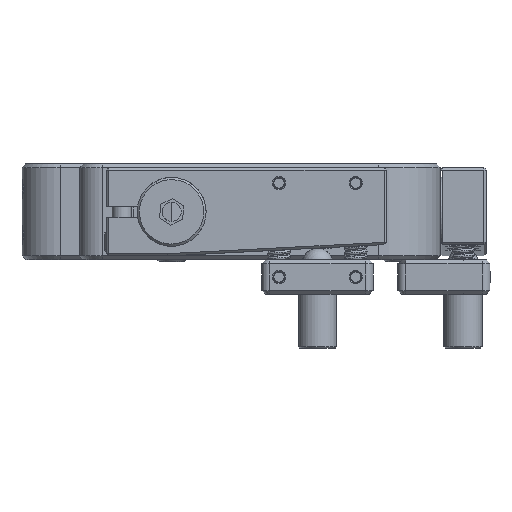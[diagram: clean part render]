
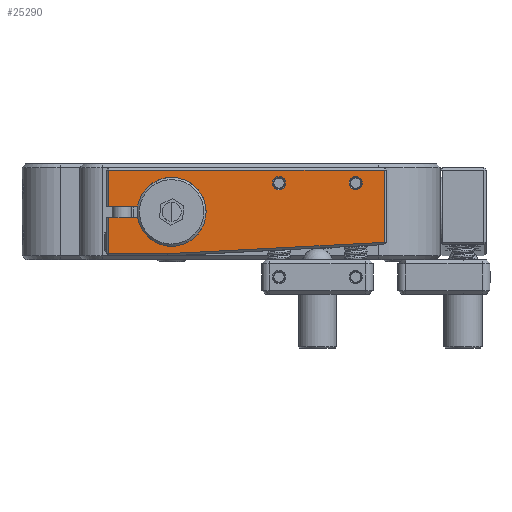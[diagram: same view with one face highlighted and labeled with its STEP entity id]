
A CAD part, front view. The second image highlights one B-rep face of the part: STEP entity #25290.
In plain terms, the highlighted planar face has unit normal (0, -1, 0).
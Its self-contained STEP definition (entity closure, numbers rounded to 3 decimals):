
#46 = CARTESIAN_POINT ( 'NONE',  ( -21., -6., 3.75 ) ) ;
#786 = CARTESIAN_POINT ( 'NONE',  ( -35.5, -6., -5.45 ) ) ;
#821 = AXIS2_PLACEMENT_3D ( 'NONE', #46, #23548, #32601 ) ;
#894 = AXIS2_PLACEMENT_3D ( 'NONE', #10769, #22538, #34475 ) ;
#1364 = CIRCLE ( 'NONE', #20429, 4.5 ) ;
#1648 = ORIENTED_EDGE ( 'NONE', *, *, #29728, .T. ) ;
#1784 = EDGE_CURVE ( 'NONE', #34677, #2443, #25568, .T. ) ;
#1942 = LINE ( 'NONE', #28921, #24547 ) ;
#2396 = ORIENTED_EDGE ( 'NONE', *, *, #5784, .T. ) ;
#2443 = VERTEX_POINT ( 'NONE', #15684 ) ;
#2470 = CARTESIAN_POINT ( 'NONE',  ( -25.25, -6., 5.45 ) ) ;
#2516 = DIRECTION ( 'NONE',  ( 1., 0., 0. ) ) ;
#3000 = CARTESIAN_POINT ( 'NONE',  ( -11.85, -6., 3.75 ) ) ;
#3021 = AXIS2_PLACEMENT_3D ( 'NONE', #10380, #10945, #10751 ) ;
#3743 = VERTEX_POINT ( 'NONE', #22226 ) ;
#3839 = VERTEX_POINT ( 'NONE', #31087 ) ;
#3955 = EDGE_CURVE ( 'NONE', #35959, #23693, #35302, .T. ) ;
#5614 = ORIENTED_EDGE ( 'NONE', *, *, #29167, .T. ) ;
#5784 = EDGE_CURVE ( 'NONE', #35959, #33024, #19371, .T. ) ;
#5830 = DIRECTION ( 'NONE',  ( -1., 0., 0. ) ) ;
#6355 = CARTESIAN_POINT ( 'NONE',  ( -43.2, -6., 0. ) ) ;
#6403 = CARTESIAN_POINT ( 'NONE',  ( -11., -6., 3.75 ) ) ;
#6441 = CIRCLE ( 'NONE', #37202, 0.85 ) ;
#6456 = CARTESIAN_POINT ( 'NONE',  ( -43.2, -6., 5.45 ) ) ;
#7032 = ORIENTED_EDGE ( 'NONE', *, *, #21325, .T. ) ;
#7416 = DIRECTION ( 'NONE',  ( 0., 0., -1. ) ) ;
#7465 = DIRECTION ( 'NONE',  ( 0., 0., 1. ) ) ;
#7471 = EDGE_CURVE ( 'NONE', #10352, #18314, #6441, .T. ) ;
#9964 = EDGE_CURVE ( 'NONE', #37945, #3839, #26896, .T. ) ;
#9974 = VERTEX_POINT ( 'NONE', #12244 ) ;
#10323 = DIRECTION ( 'NONE',  ( -1., 0., 0. ) ) ;
#10352 = VERTEX_POINT ( 'NONE', #3000 ) ;
#10380 = CARTESIAN_POINT ( 'NONE',  ( -11., -6., 3.75 ) ) ;
#10751 = DIRECTION ( 'NONE',  ( -1., 0., 0. ) ) ;
#10769 = CARTESIAN_POINT ( 'NONE',  ( -25.25, -6., 0. ) ) ;
#10930 = LINE ( 'NONE', #19801, #15586 ) ;
#10945 = DIRECTION ( 'NONE',  ( 0., 1., 0. ) ) ;
#11179 = CARTESIAN_POINT ( 'NONE',  ( -7.3, -6., 5.45 ) ) ;
#12174 = ORIENTED_EDGE ( 'NONE', *, *, #24682, .T. ) ;
#12244 = CARTESIAN_POINT ( 'NONE',  ( -43.2, -6., 0.75 ) ) ;
#12523 = DIRECTION ( 'NONE',  ( 0., 0., -1. ) ) ;
#12747 = ORIENTED_EDGE ( 'NONE', *, *, #3955, .F. ) ;
#13124 = CIRCLE ( 'NONE', #821, 0.85 ) ;
#13384 = EDGE_CURVE ( 'NONE', #33024, #37945, #20635, .T. ) ;
#13843 = EDGE_CURVE ( 'NONE', #29137, #32177, #29246, .T. ) ;
#13947 = VECTOR ( 'NONE', #7416, 1000. ) ;
#14500 = DIRECTION ( 'NONE',  ( 1., 0., 0. ) ) ;
#15586 = VECTOR ( 'NONE', #7465, 1000. ) ;
#15684 = CARTESIAN_POINT ( 'NONE',  ( -20.15, -6., 3.75 ) ) ;
#15736 = DIRECTION ( 'NONE',  ( 0., 1., 0. ) ) ;
#15807 = VECTOR ( 'NONE', #35030, 1000. ) ;
#16045 = EDGE_LOOP ( 'NONE', ( #36240, #12174, #5614, #22135, #12747, #2396, #35866, #17717, #32644 ) ) ;
#16492 = CARTESIAN_POINT ( 'NONE',  ( -43.2, -6., -5.45 ) ) ;
#16663 = ORIENTED_EDGE ( 'NONE', *, *, #1784, .T. ) ;
#17142 = PLANE ( 'NONE',  #894 ) ;
#17522 = CARTESIAN_POINT ( 'NONE',  ( -43.2, -6., -0.75 ) ) ;
#17717 = ORIENTED_EDGE ( 'NONE', *, *, #9964, .T. ) ;
#18259 = VECTOR ( 'NONE', #32770, 1000. ) ;
#18314 = VERTEX_POINT ( 'NONE', #31605 ) ;
#19371 = LINE ( 'NONE', #33823, #13947 ) ;
#19801 = CARTESIAN_POINT ( 'NONE',  ( -7.3, -6., 5.75 ) ) ;
#20273 = CIRCLE ( 'NONE', #3021, 0.85 ) ;
#20350 = CARTESIAN_POINT ( 'NONE',  ( -24.993, -6., -4.899 ) ) ;
#20429 = AXIS2_PLACEMENT_3D ( 'NONE', #36719, #15736, #10323 ) ;
#20635 = LINE ( 'NONE', #786, #18259 ) ;
#21320 = CARTESIAN_POINT ( 'NONE',  ( -21.85, -6., 3.75 ) ) ;
#21325 = EDGE_CURVE ( 'NONE', #2443, #34677, #13124, .T. ) ;
#21402 = LINE ( 'NONE', #6355, #34704 ) ;
#21503 = EDGE_CURVE ( 'NONE', #3839, #29137, #10930, .T. ) ;
#22135 = ORIENTED_EDGE ( 'NONE', *, *, #27704, .T. ) ;
#22226 = CARTESIAN_POINT ( 'NONE',  ( -39.437, -6., 0.75 ) ) ;
#22538 = DIRECTION ( 'NONE',  ( 0., 1., 0. ) ) ;
#23374 = CARTESIAN_POINT ( 'NONE',  ( -25.25, -6., -0.75 ) ) ;
#23548 = DIRECTION ( 'NONE',  ( 0., 1., 0. ) ) ;
#23693 = VERTEX_POINT ( 'NONE', #32671 ) ;
#24547 = VECTOR ( 'NONE', #2516, 1000. ) ;
#24599 = CARTESIAN_POINT ( 'NONE',  ( -21., -6., 3.75 ) ) ;
#24682 = EDGE_CURVE ( 'NONE', #32177, #9974, #21402, .T. ) ;
#25166 = EDGE_LOOP ( 'NONE', ( #1648, #33122 ) ) ;
#25290 = ADVANCED_FACE ( 'NONE', ( #37158, #31388, #28500 ), #17142, .F. ) ;
#25568 = CIRCLE ( 'NONE', #35416, 0.85 ) ;
#26896 = LINE ( 'NONE', #20350, #36021 ) ;
#27704 = EDGE_CURVE ( 'NONE', #3743, #23693, #1364, .T. ) ;
#27847 = DIRECTION ( 'NONE',  ( -1., 0., 0. ) ) ;
#28500 = FACE_OUTER_BOUND ( 'NONE', #16045, .T. ) ;
#28875 = CARTESIAN_POINT ( 'NONE',  ( -35.508, -6., -5.45 ) ) ;
#28921 = CARTESIAN_POINT ( 'NONE',  ( -25.25, -6., 0.75 ) ) ;
#29137 = VERTEX_POINT ( 'NONE', #11179 ) ;
#29167 = EDGE_CURVE ( 'NONE', #9974, #3743, #1942, .T. ) ;
#29246 = LINE ( 'NONE', #2470, #15807 ) ;
#29728 = EDGE_CURVE ( 'NONE', #18314, #10352, #20273, .T. ) ;
#29939 = DIRECTION ( 'NONE',  ( 0., 1., 0. ) ) ;
#31022 = EDGE_LOOP ( 'NONE', ( #7032, #16663 ) ) ;
#31087 = CARTESIAN_POINT ( 'NONE',  ( -7.3, -6., -3.972 ) ) ;
#31388 = FACE_BOUND ( 'NONE', #31022, .T. ) ;
#31605 = CARTESIAN_POINT ( 'NONE',  ( -10.15, -6., 3.75 ) ) ;
#31717 = VECTOR ( 'NONE', #14500, 1000. ) ;
#32177 = VERTEX_POINT ( 'NONE', #6456 ) ;
#32484 = DIRECTION ( 'NONE',  ( 0.999, 0., 0.052 ) ) ;
#32601 = DIRECTION ( 'NONE',  ( -1., 0., 0. ) ) ;
#32644 = ORIENTED_EDGE ( 'NONE', *, *, #21503, .T. ) ;
#32671 = CARTESIAN_POINT ( 'NONE',  ( -39.437, -6., -0.75 ) ) ;
#32770 = DIRECTION ( 'NONE',  ( 1., 0., 0. ) ) ;
#33024 = VERTEX_POINT ( 'NONE', #16492 ) ;
#33122 = ORIENTED_EDGE ( 'NONE', *, *, #7471, .T. ) ;
#33823 = CARTESIAN_POINT ( 'NONE',  ( -43.2, -6., 0. ) ) ;
#34475 = DIRECTION ( 'NONE',  ( -1., 0., 0. ) ) ;
#34677 = VERTEX_POINT ( 'NONE', #21320 ) ;
#34704 = VECTOR ( 'NONE', #12523, 1000. ) ;
#35030 = DIRECTION ( 'NONE',  ( -1., 0., 0. ) ) ;
#35302 = LINE ( 'NONE', #23374, #31717 ) ;
#35416 = AXIS2_PLACEMENT_3D ( 'NONE', #24599, #36153, #27847 ) ;
#35866 = ORIENTED_EDGE ( 'NONE', *, *, #13384, .T. ) ;
#35959 = VERTEX_POINT ( 'NONE', #17522 ) ;
#36021 = VECTOR ( 'NONE', #32484, 1000. ) ;
#36153 = DIRECTION ( 'NONE',  ( 0., 1., 0. ) ) ;
#36240 = ORIENTED_EDGE ( 'NONE', *, *, #13843, .T. ) ;
#36719 = CARTESIAN_POINT ( 'NONE',  ( -35., -6., 0. ) ) ;
#37158 = FACE_BOUND ( 'NONE', #25166, .T. ) ;
#37202 = AXIS2_PLACEMENT_3D ( 'NONE', #6403, #29939, #5830 ) ;
#37945 = VERTEX_POINT ( 'NONE', #28875 ) ;
